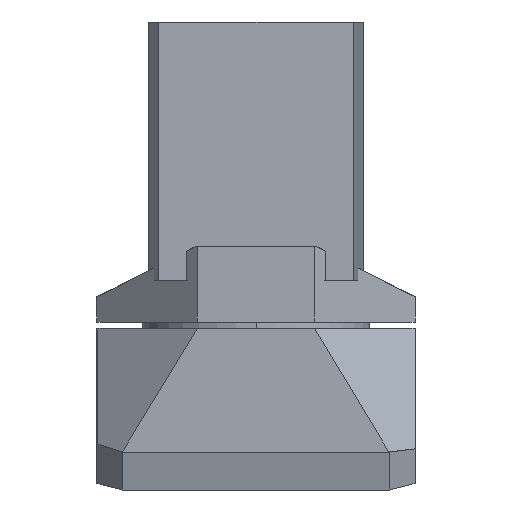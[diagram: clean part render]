
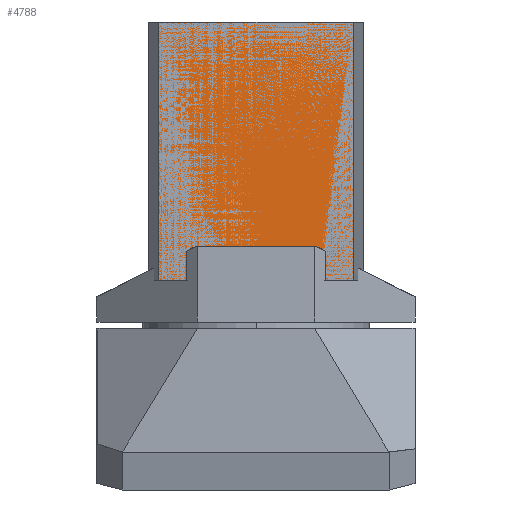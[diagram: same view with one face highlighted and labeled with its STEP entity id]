
A CAD part, front view. The second image highlights one B-rep face of the part: STEP entity #4788.
In plain terms, the highlighted planar face has unit normal (0, -1, 0).
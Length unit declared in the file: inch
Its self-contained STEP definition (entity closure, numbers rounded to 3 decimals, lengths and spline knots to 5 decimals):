
#1205 = FACE_OUTER_BOUND ( 'NONE', #4789, .T. ) ;
#1210 = DIRECTION ( 'NONE',  ( 1., 0., 0. ) ) ;
#1211 = VECTOR ( 'NONE', #1210, 39.37008 ) ;
#1212 = CARTESIAN_POINT ( 'NONE',  ( 0.82677, -1.38047, -2.55906 ) ) ;
#1213 = LINE ( 'NONE', #1212, #1211 ) ;
#1238 = CARTESIAN_POINT ( 'NONE',  ( -0.96481, -1.38047, 0. ) ) ;
#1239 = DIRECTION ( 'NONE',  ( 0., 0., -1. ) ) ;
#1240 = VECTOR ( 'NONE', #1239, 39.37008 ) ;
#1241 = CARTESIAN_POINT ( 'NONE',  ( -0.96481, -1.38047, 0. ) ) ;
#1242 = LINE ( 'NONE', #1241, #1240 ) ;
#1243 = CARTESIAN_POINT ( 'NONE',  ( -0.96481, -1.38047, -2.55906 ) ) ;
#1266 = DIRECTION ( 'NONE',  ( 0., 0., 1. ) ) ;
#1267 = DIRECTION ( 'NONE',  ( 0., 1., 0. ) ) ;
#1268 = CARTESIAN_POINT ( 'NONE',  ( 0.82677, -1.38047, 0. ) ) ;
#1269 = AXIS2_PLACEMENT_3D ( 'NONE', #1268, #1267, #1266 ) ;
#1270 = PLANE ( 'NONE',  #1269 ) ;
#1523 = DIRECTION ( 'NONE',  ( 1., 0., 0. ) ) ;
#1524 = VECTOR ( 'NONE', #1523, 39.37008 ) ;
#1525 = CARTESIAN_POINT ( 'NONE',  ( 0.82677, -1.38047, 0. ) ) ;
#1526 = LINE ( 'NONE', #1525, #1524 ) ;
#1528 = CARTESIAN_POINT ( 'NONE',  ( 0.96481, -1.38047, 0. ) ) ;
#1529 = DIRECTION ( 'NONE',  ( 0., 0., -1. ) ) ;
#1530 = VECTOR ( 'NONE', #1529, 39.37008 ) ;
#1531 = CARTESIAN_POINT ( 'NONE',  ( 0.96481, -1.38047, 0. ) ) ;
#1532 = LINE ( 'NONE', #1531, #1530 ) ;
#1533 = CARTESIAN_POINT ( 'NONE',  ( 0.96481, -1.38047, -2.55906 ) ) ;
#1534 = DIRECTION ( 'NONE',  ( 1., 0., 0. ) ) ;
#1535 = VECTOR ( 'NONE', #1534, 39.37008 ) ;
#1536 = CARTESIAN_POINT ( 'NONE',  ( 0.82677, -1.38047, -2.55906 ) ) ;
#1537 = LINE ( 'NONE', #1536, #1535 ) ;
#2864 = CARTESIAN_POINT ( 'NONE',  ( -0.5935, -1.38047, -2.2215 ) ) ;
#2865 = DIRECTION ( 'NONE',  ( -1., 0., 0. ) ) ;
#2866 = VECTOR ( 'NONE', #2865, 39.37008 ) ;
#2867 = CARTESIAN_POINT ( 'NONE',  ( -2.21849, -1.38047, -2.2215 ) ) ;
#2868 = LINE ( 'NONE', #2867, #2866 ) ;
#2869 = CARTESIAN_POINT ( 'NONE',  ( 0.5935, -1.38047, -2.2215 ) ) ;
#2923 = DIRECTION ( 'NONE',  ( 0., 0., 1. ) ) ;
#2947 = VECTOR ( 'NONE', #2923, 39.37008 ) ;
#2948 = CARTESIAN_POINT ( 'NONE',  ( -0.68644, -1.38047, -2.2215 ) ) ;
#2949 = LINE ( 'NONE', #2948, #2947 ) ;
#3736 = EDGE_CURVE ( 'NONE', #3829, #3798, #6872, .T. ) ;
#3773 = EDGE_CURVE ( 'NONE', #3788, #3826, #6959, .T. ) ;
#3779 = VERTEX_POINT ( 'NONE', #6917 ) ;
#3787 = EDGE_CURVE ( 'NONE', #3788, #3789, #6901, .T. ) ;
#3788 = VERTEX_POINT ( 'NONE', #6897 ) ;
#3789 = VERTEX_POINT ( 'NONE', #6896 ) ;
#3798 = VERTEX_POINT ( 'NONE', #6821 ) ;
#3813 = EDGE_CURVE ( 'NONE', #3779, #3798, #2949, .T. ) ;
#3826 = VERTEX_POINT ( 'NONE', #2869 ) ;
#3828 = EDGE_CURVE ( 'NONE', #3826, #3829, #2868, .T. ) ;
#3829 = VERTEX_POINT ( 'NONE', #2864 ) ;
#4757 = ORIENTED_EDGE ( 'NONE', *, *, #3828, .F. ) ;
#4785 = EDGE_CURVE ( 'NONE', #4806, #3779, #1213, .T. ) ;
#4788 = ADVANCED_FACE ( 'NONE', ( #1205 ), #1270, .F. ) ;
#4789 = EDGE_LOOP ( 'NONE', ( #4790, #4839, #4840, #4757, #4828, #4829, #4830, #4833, #4836, #4838 ) ) ;
#4790 = ORIENTED_EDGE ( 'NONE', *, *, #4785, .T. ) ;
#4806 = VERTEX_POINT ( 'NONE', #1243 ) ;
#4808 = EDGE_CURVE ( 'NONE', #4809, #4806, #1242, .T. ) ;
#4809 = VERTEX_POINT ( 'NONE', #1238 ) ;
#4828 = ORIENTED_EDGE ( 'NONE', *, *, #3773, .F. ) ;
#4829 = ORIENTED_EDGE ( 'NONE', *, *, #3787, .T. ) ;
#4830 = ORIENTED_EDGE ( 'NONE', *, *, #4831, .T. ) ;
#4831 = EDGE_CURVE ( 'NONE', #3789, #4832, #1537, .T. ) ;
#4832 = VERTEX_POINT ( 'NONE', #1533 ) ;
#4833 = ORIENTED_EDGE ( 'NONE', *, *, #4834, .F. ) ;
#4834 = EDGE_CURVE ( 'NONE', #4835, #4832, #1532, .T. ) ;
#4835 = VERTEX_POINT ( 'NONE', #1528 ) ;
#4836 = ORIENTED_EDGE ( 'NONE', *, *, #4837, .F. ) ;
#4837 = EDGE_CURVE ( 'NONE', #4809, #4835, #1526, .T. ) ;
#4838 = ORIENTED_EDGE ( 'NONE', *, *, #4808, .T. ) ;
#4839 = ORIENTED_EDGE ( 'NONE', *, *, #3813, .T. ) ;
#4840 = ORIENTED_EDGE ( 'NONE', *, *, #3736, .F. ) ;
#6821 = CARTESIAN_POINT ( 'NONE',  ( -0.68644, -1.38047, -2.26885 ) ) ;
#6869 = DIRECTION ( 'NONE',  ( -0.891, 0., -0.454 ) ) ;
#6870 = VECTOR ( 'NONE', #6869, 39.37008 ) ;
#6871 = CARTESIAN_POINT ( 'NONE',  ( -0.5935, -1.38047, -2.2215 ) ) ;
#6872 = LINE ( 'NONE', #6871, #6870 ) ;
#6896 = CARTESIAN_POINT ( 'NONE',  ( 0.68644, -1.38047, -2.55906 ) ) ;
#6897 = CARTESIAN_POINT ( 'NONE',  ( 0.68644, -1.38047, -2.26885 ) ) ;
#6898 = DIRECTION ( 'NONE',  ( 0., 0., -1. ) ) ;
#6899 = VECTOR ( 'NONE', #6898, 39.37008 ) ;
#6900 = CARTESIAN_POINT ( 'NONE',  ( 0.68644, -1.38047, -2.2215 ) ) ;
#6901 = LINE ( 'NONE', #6900, #6899 ) ;
#6917 = CARTESIAN_POINT ( 'NONE',  ( -0.68644, -1.38047, -2.55906 ) ) ;
#6924 = DIRECTION ( 'NONE',  ( -0.891, 0., 0.454 ) ) ;
#6925 = VECTOR ( 'NONE', #6924, 39.37008 ) ;
#6926 = CARTESIAN_POINT ( 'NONE',  ( 0.5935, -1.38047, -2.2215 ) ) ;
#6959 = LINE ( 'NONE', #6926, #6925 ) ;
